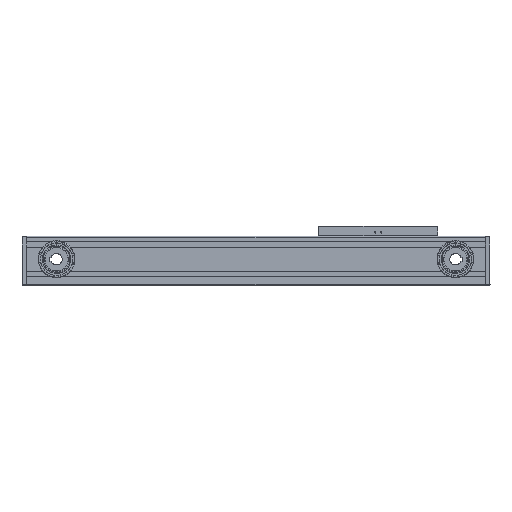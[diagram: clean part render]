
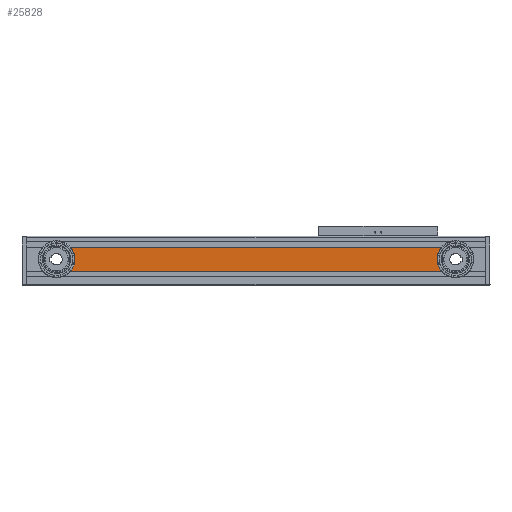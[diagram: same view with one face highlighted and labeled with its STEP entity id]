
A CAD part, top view. The second image highlights one B-rep face of the part: STEP entity #25828.
In plain terms, the highlighted planar face has unit normal (0, 0, 1).
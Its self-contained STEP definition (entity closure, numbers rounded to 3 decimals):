
#6645 = CARTESIAN_POINT ( 'NONE',  ( -164.672, 62.821, 83.366 ) ) ;
#7249 = DIRECTION ( 'NONE',  ( -1., 0., 0. ) ) ;
#15900 = DIRECTION ( 'NONE',  ( 0., 0., 1. ) ) ;
#16789 = VERTEX_POINT ( 'NONE', #104042 ) ;
#18371 = AXIS2_PLACEMENT_3D ( 'NONE', #66641, #15900, #124040 ) ;
#18809 = DIRECTION ( 'NONE',  ( -1., 0., 0. ) ) ;
#20192 = DIRECTION ( 'NONE',  ( 0., 0., 1. ) ) ;
#24688 = CIRCLE ( 'NONE', #18371, 31. ) ;
#25018 = EDGE_CURVE ( 'NONE', #99697, #104285, #35479, .T. ) ;
#25828 = ADVANCED_FACE ( 'NONE', ( #115952 ), #34142, .T. ) ;
#28827 = CARTESIAN_POINT ( 'NONE',  ( -164.672, 119.121, 83.366 ) ) ;
#30007 = CARTESIAN_POINT ( 'NONE',  ( -164.672, 103.421, 83.366 ) ) ;
#34142 = PLANE ( 'NONE',  #92724 ) ;
#34752 = EDGE_CURVE ( 'NONE', #120311, #16789, #24688, .T. ) ;
#35479 = CIRCLE ( 'NONE', #105081, 31. ) ;
#35590 = DIRECTION ( 'NONE',  ( 1., 0., 0. ) ) ;
#38089 = CARTESIAN_POINT ( 'NONE',  ( 531.899, 103.421, 83.366 ) ) ;
#38410 = ORIENTED_EDGE ( 'NONE', *, *, #34752, .F. ) ;
#59784 = VECTOR ( 'NONE', #35590, 1000. ) ;
#62797 = ORIENTED_EDGE ( 'NONE', *, *, #74847, .T. ) ;
#66641 = CARTESIAN_POINT ( 'NONE',  ( 555.328, 83.121, 83.366 ) ) ;
#74847 = EDGE_CURVE ( 'NONE', #120311, #99697, #120383, .T. ) ;
#77211 = LINE ( 'NONE', #6645, #59784 ) ;
#77503 = EDGE_LOOP ( 'NONE', ( #100191, #38410, #62797, #102819 ) ) ;
#82323 = EDGE_CURVE ( 'NONE', #104285, #16789, #77211, .T. ) ;
#83639 = CARTESIAN_POINT ( 'NONE',  ( -91.244, 103.421, 83.366 ) ) ;
#92724 = AXIS2_PLACEMENT_3D ( 'NONE', #28827, #20192, #108000 ) ;
#99697 = VERTEX_POINT ( 'NONE', #83639 ) ;
#100191 = ORIENTED_EDGE ( 'NONE', *, *, #82323, .T. ) ;
#101702 = VECTOR ( 'NONE', #18809, 1000. ) ;
#102819 = ORIENTED_EDGE ( 'NONE', *, *, #25018, .T. ) ;
#104042 = CARTESIAN_POINT ( 'NONE',  ( 531.899, 62.821, 83.366 ) ) ;
#104240 = CARTESIAN_POINT ( 'NONE',  ( -91.244, 62.821, 83.366 ) ) ;
#104285 = VERTEX_POINT ( 'NONE', #104240 ) ;
#105081 = AXIS2_PLACEMENT_3D ( 'NONE', #130445, #109429, #7249 ) ;
#108000 = DIRECTION ( 'NONE',  ( 1., 0., 0. ) ) ;
#109429 = DIRECTION ( 'NONE',  ( 0., 0., -1. ) ) ;
#115952 = FACE_OUTER_BOUND ( 'NONE', #77503, .T. ) ;
#120311 = VERTEX_POINT ( 'NONE', #38089 ) ;
#120383 = LINE ( 'NONE', #30007, #101702 ) ;
#124040 = DIRECTION ( 'NONE',  ( 1., 0., 0. ) ) ;
#130445 = CARTESIAN_POINT ( 'NONE',  ( -114.672, 83.121, 83.366 ) ) ;
